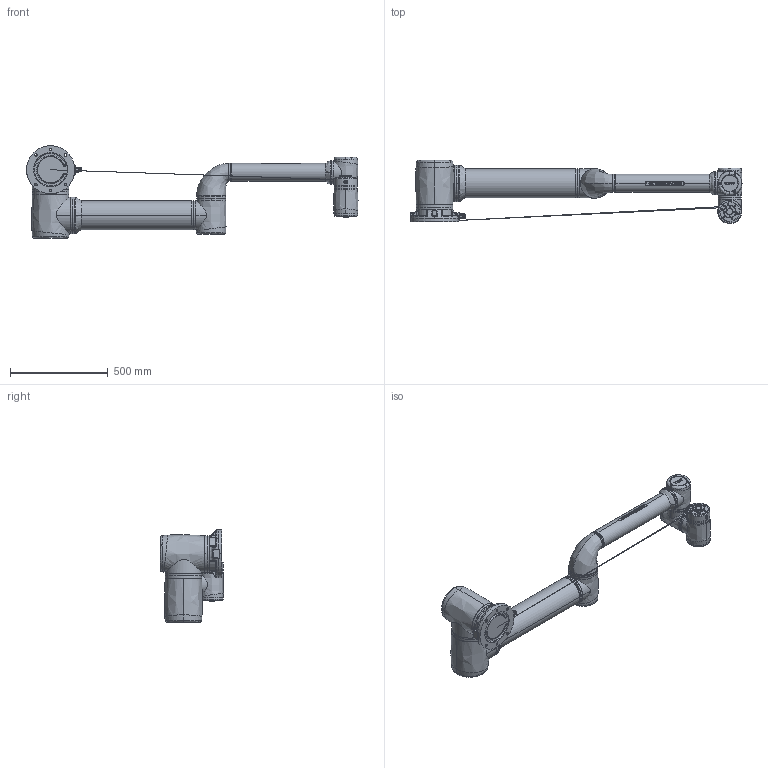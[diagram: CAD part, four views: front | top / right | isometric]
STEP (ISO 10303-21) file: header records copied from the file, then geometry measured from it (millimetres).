
FILE_DESCRIPTION (( 'STEP AP214' ), '1' );
FILE_NAME ('Pro 16.STEP', '2025-10-16T03:10:52', ( '' ), ( '' ), 'SwSTEP 2.0', 'SolidWorks 2024', '' );
FILE_SCHEMA (( 'AUTOMOTIVE_DESIGN' ));
Length unit declared in the file: millimetre
Products named in the file (8): Pro 16 01; Pro 16 00; Pro 16 02; Pro 16; Pro 16 06; Pro 16 04; Pro 16 05; Pro 16 03
Assembly tree (7 placements, depth 2):
  Pro 16
    Pro 16 00
    Pro 16 01
    Pro 16 02
    Pro 16 03
    Pro 16 04
    Pro 16 05
    Pro 16 06
Bounding box: 1694.37 x 323.26 x 473 mm (x, y, z)
Volume: 44318926.1 mm3; surface area: 1717422 mm2
Topology: 15 solids, 38 shells, 1855 faces, 4887 edges, 3267 vertices
Faces by surface type: plane 816, cylinder 529, bspline 393, cone 76, torus 33, sphere 8
Entity records: 113552 total; most frequent: CARTESIAN_POINT 53677, ORIENTED_EDGE 9686, DIRECTION 7702, EDGE_CURVE 4843, VERTEX_POINT 3267, AXIS2_PLACEMENT_3D 2740, LINE 2222, VECTOR 2222
